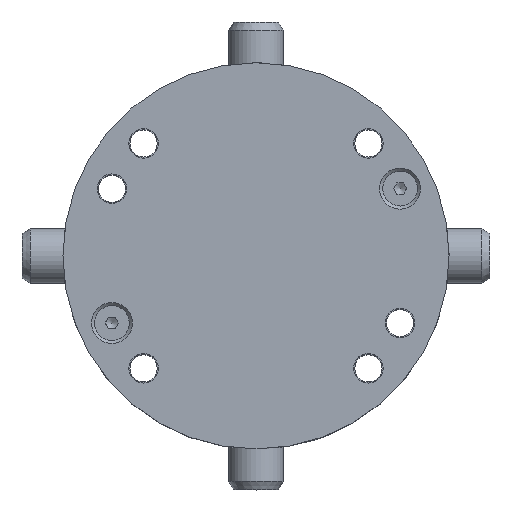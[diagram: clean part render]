
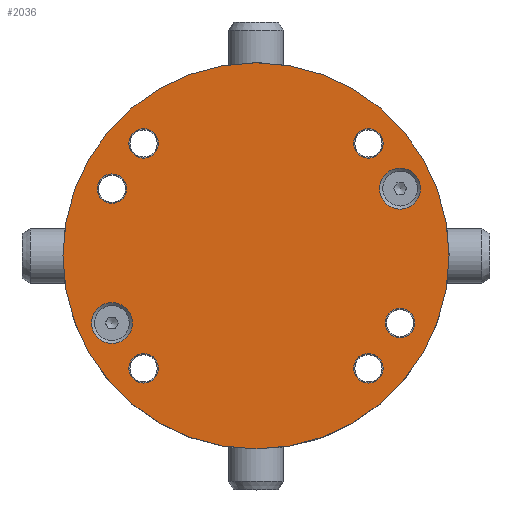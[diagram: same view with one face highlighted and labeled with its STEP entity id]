
A CAD part, top view. The second image highlights one B-rep face of the part: STEP entity #2036.
In plain terms, the highlighted planar face has unit normal (0, 0, 1).
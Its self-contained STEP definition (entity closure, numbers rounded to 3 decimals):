
#351=PLANE('',#2277);
#465=FACE_BOUND('',#871,.T.);
#466=FACE_BOUND('',#872,.T.);
#467=FACE_BOUND('',#873,.T.);
#468=FACE_BOUND('',#874,.T.);
#469=FACE_BOUND('',#875,.T.);
#470=FACE_BOUND('',#876,.T.);
#471=FACE_BOUND('',#877,.T.);
#472=FACE_BOUND('',#878,.T.);
#643=FACE_OUTER_BOUND('',#870,.T.);
#870=EDGE_LOOP('',(#1827));
#871=EDGE_LOOP('',(#1828));
#872=EDGE_LOOP('',(#1829));
#873=EDGE_LOOP('',(#1830));
#874=EDGE_LOOP('',(#1831));
#875=EDGE_LOOP('',(#1832));
#876=EDGE_LOOP('',(#1833));
#877=EDGE_LOOP('',(#1834));
#878=EDGE_LOOP('',(#1835));
#977=CIRCLE('',#2246,4.5);
#980=CIRCLE('',#2251,4.5);
#983=CIRCLE('',#2256,3.25);
#985=CIRCLE('',#2259,3.25);
#987=CIRCLE('',#2262,3.25);
#989=CIRCLE('',#2265,3.25);
#991=CIRCLE('',#2268,3.25);
#993=CIRCLE('',#2271,3.25);
#995=CIRCLE('',#2274,42.5);
#1144=VERTEX_POINT('',#3764);
#1147=VERTEX_POINT('',#3772);
#1150=VERTEX_POINT('',#3780);
#1152=VERTEX_POINT('',#3785);
#1154=VERTEX_POINT('',#3790);
#1156=VERTEX_POINT('',#3795);
#1158=VERTEX_POINT('',#3800);
#1160=VERTEX_POINT('',#3805);
#1162=VERTEX_POINT('',#3810);
#1373=EDGE_CURVE('',#1144,#1144,#977,.T.);
#1376=EDGE_CURVE('',#1147,#1147,#980,.T.);
#1379=EDGE_CURVE('',#1150,#1150,#983,.T.);
#1381=EDGE_CURVE('',#1152,#1152,#985,.T.);
#1383=EDGE_CURVE('',#1154,#1154,#987,.T.);
#1385=EDGE_CURVE('',#1156,#1156,#989,.T.);
#1387=EDGE_CURVE('',#1158,#1158,#991,.T.);
#1389=EDGE_CURVE('',#1160,#1160,#993,.T.);
#1391=EDGE_CURVE('',#1162,#1162,#995,.T.);
#1827=ORIENTED_EDGE('',*,*,#1391,.T.);
#1828=ORIENTED_EDGE('',*,*,#1373,.T.);
#1829=ORIENTED_EDGE('',*,*,#1376,.T.);
#1830=ORIENTED_EDGE('',*,*,#1379,.T.);
#1831=ORIENTED_EDGE('',*,*,#1381,.T.);
#1832=ORIENTED_EDGE('',*,*,#1383,.T.);
#1833=ORIENTED_EDGE('',*,*,#1385,.T.);
#1834=ORIENTED_EDGE('',*,*,#1387,.T.);
#1835=ORIENTED_EDGE('',*,*,#1389,.T.);
#2036=ADVANCED_FACE('',(#643,#465,#466,#467,#468,#469,#470,#471,#472),#351,
 .T.);
#2246=AXIS2_PLACEMENT_3D('',#3765,#2761,#2762);
#2251=AXIS2_PLACEMENT_3D('',#3773,#2771,#2772);
#2256=AXIS2_PLACEMENT_3D('',#3781,#2781,#2782);
#2259=AXIS2_PLACEMENT_3D('',#3786,#2787,#2788);
#2262=AXIS2_PLACEMENT_3D('',#3791,#2793,#2794);
#2265=AXIS2_PLACEMENT_3D('',#3796,#2799,#2800);
#2268=AXIS2_PLACEMENT_3D('',#3801,#2805,#2806);
#2271=AXIS2_PLACEMENT_3D('',#3806,#2811,#2812);
#2274=AXIS2_PLACEMENT_3D('',#3811,#2817,#2818);
#2277=AXIS2_PLACEMENT_3D('',#3815,#2823,#2824);
#2761=DIRECTION('center_axis',(0.,0.,-1.));
#2762=DIRECTION('ref_axis',(1.,0.,0.));
#2771=DIRECTION('center_axis',(0.,0.,-1.));
#2772=DIRECTION('ref_axis',(1.,0.,0.));
#2781=DIRECTION('center_axis',(0.,0.,-1.));
#2782=DIRECTION('ref_axis',(1.,0.,0.));
#2787=DIRECTION('center_axis',(0.,0.,-1.));
#2788=DIRECTION('ref_axis',(-1.,0.,0.));
#2793=DIRECTION('center_axis',(0.,0.,-1.));
#2794=DIRECTION('ref_axis',(0.,1.,0.));
#2799=DIRECTION('center_axis',(0.,0.,-1.));
#2800=DIRECTION('ref_axis',(1.,0.,0.));
#2805=DIRECTION('center_axis',(0.,0.,-1.));
#2806=DIRECTION('ref_axis',(0.,-1.,0.));
#2811=DIRECTION('center_axis',(0.,0.,-1.));
#2812=DIRECTION('ref_axis',(-1.,0.,0.));
#2817=DIRECTION('center_axis',(0.,0.,1.));
#2818=DIRECTION('ref_axis',(-1.,0.,0.));
#2823=DIRECTION('center_axis',(0.,0.,1.));
#2824=DIRECTION('ref_axis',(1.,0.,0.));
#3764=CARTESIAN_POINT('',(36.221,14.792,5.));
#3765=CARTESIAN_POINT('Origin',(31.721,14.792,5.));
#3772=CARTESIAN_POINT('',(-27.221,-14.792,5.));
#3773=CARTESIAN_POINT('Origin',(-31.721,-14.792,5.));
#3780=CARTESIAN_POINT('',(-34.971,14.792,5.));
#3781=CARTESIAN_POINT('Origin',(-31.721,14.792,5.));
#3785=CARTESIAN_POINT('',(34.971,-14.792,5.));
#3786=CARTESIAN_POINT('Origin',(31.721,-14.792,5.));
#3790=CARTESIAN_POINT('',(24.749,-27.999,5.));
#3791=CARTESIAN_POINT('Origin',(24.749,-24.749,5.));
#3795=CARTESIAN_POINT('',(-27.999,-24.749,5.));
#3796=CARTESIAN_POINT('Origin',(-24.749,-24.749,5.));
#3800=CARTESIAN_POINT('',(-24.749,27.999,5.));
#3801=CARTESIAN_POINT('Origin',(-24.749,24.749,5.));
#3805=CARTESIAN_POINT('',(27.999,24.749,5.));
#3806=CARTESIAN_POINT('Origin',(24.749,24.749,5.));
#3810=CARTESIAN_POINT('',(42.5,0.,5.));
#3811=CARTESIAN_POINT('Origin',(0.,0.,
5.));
#3815=CARTESIAN_POINT('Origin',(0.,0.,
5.));
